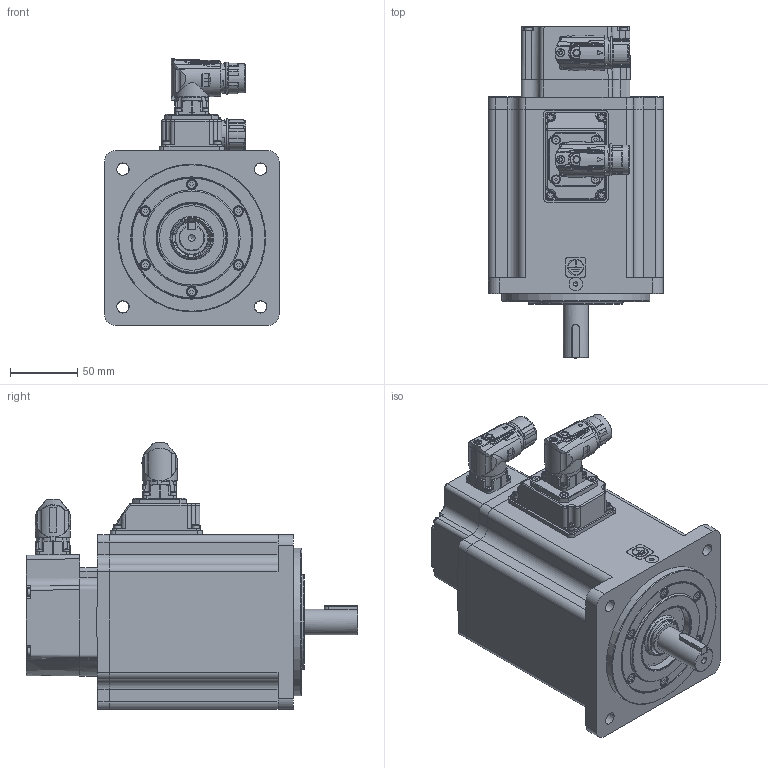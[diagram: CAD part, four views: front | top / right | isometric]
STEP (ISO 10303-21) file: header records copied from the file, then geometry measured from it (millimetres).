
FILE_DESCRIPTION( ( 'Unknown' ), '1' );
FILE_NAME( 'U:/05_Progetto TCE/010-TCE motor drawings/TCE130/Vuoti/TCE130 5D XX 3 A1 0 C2.stp', 'Unknown', ( 'Unknown' ), ( 'Unknown' ), 'PSStep 17.0.49', 'Unknown', ' ' );
FILE_SCHEMA( ( 'AUTOMOTIVE_DESIGN { 1 0 10303 214 1 1 1 1 }' ) );
Length unit declared in the file: millimetre
Products named in the file (13): 005123001528
Bounding box: 130.3 x 247 x 198.5 mm (x, y, z)
Volume: 1104168 mm3; surface area: 340891.3 mm2
Topology: 14 solids, 84 shells, 2954 faces, 7358 edges, 4744 vertices
Faces by surface type: plane 1425, cylinder 727, cone 287, bspline 231, torus 165, sphere 81, extrusion 38
Full cylindrical faces by diameter (mm): 0.5 x1, 1 x21, 1.2 x17, 1.4 x4, 2 x4, 2.013 x4, 2.2 x2, 2.459 x23, 2.5 x8, 2.6 x4, 2.8 x4, 3 x28, 3.242 x24, 3.5 x8, 4 x15, 4.134 x16, 4.4 x4, 4.5 x12, 4.7 x4, 4.917 x2, 5 x8, 5.5 x19, 5.8 x1, 5.9 x2, 6.8 x1, 7 x10, 8 x12, 8.5 x8, 10 x1, 10.5 x8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
Entity records: 121551 total; most frequent: CARTESIAN_POINT 36487, DIRECTION 13014, ORIENTED_EDGE 12654, EDGE_CURVE 6327, AXIS2_PLACEMENT_3D 4888, VERTEX_POINT 4489, EDGE_LOOP 3942, FACE_OUTER_BOUND 3425
